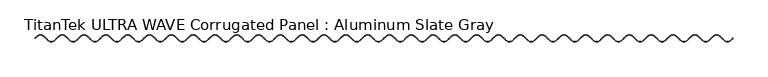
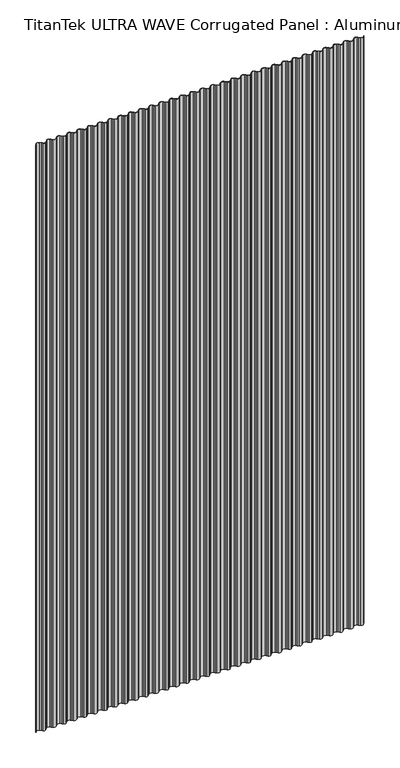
"""IFC4 building model written with IfcOpenShell, lengths in millimetres: proxy geometry, TitanTek ULTRA WAVE Corrugated Panel : Aluminum Slate Gray."""

from ifc_helpers import new_model, si_unit, point, frame_2d, origin, origin_with_axes, place, context, project, spatial, polyline, circle_curve, trimmed, segment, composite_curve, outline, extrude, source, transform, mapped, element, save


def titantek_ultra_wave_corrugated_panel_aluminum_slate_gray_77245a93(model_context):
    return source(origin(), model_context, "Body", "SweptSolid", [
        extrude(outline(composite_curve([segment(trimmed(circle_curve(frame_2d((2691.13, -7.499029)), 14.7255365), [point((2701.5425267, -17.9115558))], [point((2680.7174733, -17.9115558))], False, "CARTESIAN"), True, "CONTINUOUS"), segment(polyline([(2680.7174733, -17.9115558), (2674.2692087, -11.4632913), (2667.8209442, -5.0150267)]), True, "CONTINUOUS"), segment(trimmed(circle_curve(frame_2d((2658.11, -14.725971)), 13.733349), [point((2667.8209442, -5.0150267))], [point((2648.3990558, -5.0150267))], True, "CARTESIAN"), True, "CONTINUOUS"), segment(polyline([(2648.3990558, -5.0150267), (2641.9507913, -11.4632913), (2641.2492087, -10.7617087), (2647.6974733, -4.3134442)]), True, "CONTINUOUS"), segment(trimmed(circle_curve(frame_2d((2658.11, -14.725971)), 14.7255365), [point((2647.6974733, -4.3134442))], [point((2668.5225267, -4.3134442))], False, "CARTESIAN"), True, "CONTINUOUS"), segment(polyline([(2668.5225267, -4.3134442), (2674.9707913, -10.7617087), (2681.4190558, -17.2099733)]), True, "CONTINUOUS"), segment(trimmed(circle_curve(frame_2d((2691.13, -7.499029)), 13.733349), [point((2681.4190558, -17.2099733))], [point((2700.8409442, -17.2099733))], True, "CARTESIAN"), True, "CONTINUOUS"), segment(polyline([(2700.8409442, -17.2099733), (2707.2892087, -10.7617087), (2707.9907913, -11.4632913), (2701.5425267, -17.9115558)]), True, "CONTINUOUS")], self_intersect=False)), origin_with_axes(), (0.0, 0.0, 1.0), 4000.0),
        extrude(outline(composite_curve([segment(trimmed(circle_curve(frame_2d((2625.09, -7.499029)), 14.7255365), [point((2635.5025267, -17.9115558))], [point((2614.6774733, -17.9115558))], False, "CARTESIAN"), True, "CONTINUOUS"), segment(polyline([(2614.6774733, -17.9115558), (2608.2292087, -11.4632913), (2601.7809442, -5.0150267)]), True, "CONTINUOUS"), segment(trimmed(circle_curve(frame_2d((2592.07, -14.725971)), 13.733349), [point((2601.7809442, -5.0150267))], [point((2582.3590558, -5.0150267))], True, "CARTESIAN"), True, "CONTINUOUS"), segment(polyline([(2582.3590558, -5.0150267), (2575.9107913, -11.4632913), (2575.2092087, -10.7617087), (2581.6574733, -4.3134442)]), True, "CONTINUOUS"), segment(trimmed(circle_curve(frame_2d((2592.07, -14.725971)), 14.7255365), [point((2581.6574733, -4.3134442))], [point((2602.4825267, -4.3134442))], False, "CARTESIAN"), True, "CONTINUOUS"), segment(polyline([(2602.4825267, -4.3134442), (2608.9307913, -10.7617087), (2615.3790558, -17.2099733)]), True, "CONTINUOUS"), segment(trimmed(circle_curve(frame_2d((2625.09, -7.499029)), 13.733349), [point((2615.3790558, -17.2099733))], [point((2634.8009442, -17.2099733))], True, "CARTESIAN"), True, "CONTINUOUS"), segment(polyline([(2634.8009442, -17.2099733), (2641.2492087, -10.7617087), (2641.9507913, -11.4632913), (2635.5025267, -17.9115558)]), True, "CONTINUOUS")], self_intersect=False)), origin_with_axes(), (0.0, 0.0, 1.0), 4000.0),
        extrude(outline(composite_curve([segment(trimmed(circle_curve(frame_2d((2559.05, -7.499029)), 14.7255365), [point((2569.4625267, -17.9115558))], [point((2548.6374733, -17.9115558))], False, "CARTESIAN"), True, "CONTINUOUS"), segment(polyline([(2548.6374733, -17.9115558), (2542.1892087, -11.4632913), (2535.7409442, -5.0150267)]), True, "CONTINUOUS"), segment(trimmed(circle_curve(frame_2d((2526.03, -14.725971)), 13.733349), [point((2535.7409442, -5.0150267))], [point((2516.3190558, -5.0150267))], True, "CARTESIAN"), True, "CONTINUOUS"), segment(polyline([(2516.3190558, -5.0150267), (2509.8707913, -11.4632913), (2509.1692087, -10.7617087), (2515.6174733, -4.3134442)]), True, "CONTINUOUS"), segment(trimmed(circle_curve(frame_2d((2526.03, -14.725971)), 14.7255365), [point((2515.6174733, -4.3134442))], [point((2536.4425267, -4.3134442))], False, "CARTESIAN"), True, "CONTINUOUS"), segment(polyline([(2536.4425267, -4.3134442), (2542.8907913, -10.7617087), (2549.3390558, -17.2099733)]), True, "CONTINUOUS"), segment(trimmed(circle_curve(frame_2d((2559.05, -7.499029)), 13.733349), [point((2549.3390558, -17.2099733))], [point((2568.7609442, -17.2099733))], True, "CARTESIAN"), True, "CONTINUOUS"), segment(polyline([(2568.7609442, -17.2099733), (2575.2092087, -10.7617087), (2575.9107913, -11.4632913), (2569.4625267, -17.9115558)]), True, "CONTINUOUS")], self_intersect=False)), origin_with_axes(), (0.0, 0.0, 1.0), 4000.0),
        extrude(outline(composite_curve([segment(trimmed(circle_curve(frame_2d((2493.01, -7.499029)), 14.7255365), [point((2503.4225267, -17.9115558))], [point((2482.5974733, -17.9115558))], False, "CARTESIAN"), True, "CONTINUOUS"), segment(polyline([(2482.5974733, -17.9115558), (2476.1492087, -11.4632913), (2469.7009442, -5.0150267)]), True, "CONTINUOUS"), segment(trimmed(circle_curve(frame_2d((2459.99, -14.725971)), 13.733349), [point((2469.7009442, -5.0150267))], [point((2450.2790558, -5.0150267))], True, "CARTESIAN"), True, "CONTINUOUS"), segment(polyline([(2450.2790558, -5.0150267), (2443.8307913, -11.4632913), (2443.1292087, -10.7617087), (2449.5774733, -4.3134442)]), True, "CONTINUOUS"), segment(trimmed(circle_curve(frame_2d((2459.99, -14.725971)), 14.7255365), [point((2449.5774733, -4.3134442))], [point((2470.4025267, -4.3134442))], False, "CARTESIAN"), True, "CONTINUOUS"), segment(polyline([(2470.4025267, -4.3134442), (2476.8507913, -10.7617087), (2483.2990558, -17.2099733)]), True, "CONTINUOUS"), segment(trimmed(circle_curve(frame_2d((2493.01, -7.499029)), 13.733349), [point((2483.2990558, -17.2099733))], [point((2502.7209442, -17.2099733))], True, "CARTESIAN"), True, "CONTINUOUS"), segment(polyline([(2502.7209442, -17.2099733), (2509.1692087, -10.7617087), (2509.8707913, -11.4632913), (2503.4225267, -17.9115558)]), True, "CONTINUOUS")], self_intersect=False)), origin_with_axes(), (0.0, 0.0, 1.0), 4000.0),
        extrude(outline(composite_curve([segment(trimmed(circle_curve(frame_2d((2426.97, -7.499029)), 14.7255365), [point((2437.3825267, -17.9115558))], [point((2416.5574733, -17.9115558))], False, "CARTESIAN"), True, "CONTINUOUS"), segment(polyline([(2416.5574733, -17.9115558), (2410.1092087, -11.4632913), (2403.6609442, -5.0150267)]), True, "CONTINUOUS"), segment(trimmed(circle_curve(frame_2d((2393.95, -14.725971)), 13.733349), [point((2403.6609442, -5.0150267))], [point((2384.2390558, -5.0150267))], True, "CARTESIAN"), True, "CONTINUOUS"), segment(polyline([(2384.2390558, -5.0150267), (2377.7907913, -11.4632913), (2377.0892087, -10.7617087), (2383.5374733, -4.3134442)]), True, "CONTINUOUS"), segment(trimmed(circle_curve(frame_2d((2393.95, -14.725971)), 14.7255365), [point((2383.5374733, -4.3134442))], [point((2404.3625267, -4.3134442))], False, "CARTESIAN"), True, "CONTINUOUS"), segment(polyline([(2404.3625267, -4.3134442), (2410.8107913, -10.7617087), (2417.2590558, -17.2099733)]), True, "CONTINUOUS"), segment(trimmed(circle_curve(frame_2d((2426.97, -7.499029)), 13.733349), [point((2417.2590558, -17.2099733))], [point((2436.6809442, -17.2099733))], True, "CARTESIAN"), True, "CONTINUOUS"), segment(polyline([(2436.6809442, -17.2099733), (2443.1292087, -10.7617087), (2443.8307913, -11.4632913), (2437.3825267, -17.9115558)]), True, "CONTINUOUS")], self_intersect=False)), origin_with_axes(), (0.0, 0.0, 1.0), 4000.0),
        extrude(outline(composite_curve([segment(trimmed(circle_curve(frame_2d((2360.93, -7.499029)), 14.7255365), [point((2371.3425267, -17.9115558))], [point((2350.5174733, -17.9115558))], False, "CARTESIAN"), True, "CONTINUOUS"), segment(polyline([(2350.5174733, -17.9115558), (2344.0692087, -11.4632913), (2337.6209442, -5.0150267)]), True, "CONTINUOUS"), segment(trimmed(circle_curve(frame_2d((2327.91, -14.725971)), 13.733349), [point((2337.6209442, -5.0150267))], [point((2318.1990558, -5.0150267))], True, "CARTESIAN"), True, "CONTINUOUS"), segment(polyline([(2318.1990558, -5.0150267), (2311.7507913, -11.4632913), (2311.0492087, -10.7617087), (2317.4974733, -4.3134442)]), True, "CONTINUOUS"), segment(trimmed(circle_curve(frame_2d((2327.91, -14.725971)), 14.7255365), [point((2317.4974733, -4.3134442))], [point((2338.3225267, -4.3134442))], False, "CARTESIAN"), True, "CONTINUOUS"), segment(polyline([(2338.3225267, -4.3134442), (2344.7707913, -10.7617087), (2351.2190558, -17.2099733)]), True, "CONTINUOUS"), segment(trimmed(circle_curve(frame_2d((2360.93, -7.499029)), 13.733349), [point((2351.2190558, -17.2099733))], [point((2370.6409442, -17.2099733))], True, "CARTESIAN"), True, "CONTINUOUS"), segment(polyline([(2370.6409442, -17.2099733), (2377.0892087, -10.7617087), (2377.7907913, -11.4632913), (2371.3425267, -17.9115558)]), True, "CONTINUOUS")], self_intersect=False)), origin_with_axes(), (0.0, 0.0, 1.0), 4000.0),
        extrude(outline(composite_curve([segment(trimmed(circle_curve(frame_2d((2294.89, -7.499029)), 14.7255365), [point((2305.3025267, -17.9115558))], [point((2284.4774733, -17.9115558))], False, "CARTESIAN"), True, "CONTINUOUS"), segment(polyline([(2284.4774733, -17.9115558), (2278.0292087, -11.4632913), (2271.5809442, -5.0150267)]), True, "CONTINUOUS"), segment(trimmed(circle_curve(frame_2d((2261.87, -14.725971)), 13.733349), [point((2271.5809442, -5.0150267))], [point((2252.1590558, -5.0150267))], True, "CARTESIAN"), True, "CONTINUOUS"), segment(polyline([(2252.1590558, -5.0150267), (2245.7107913, -11.4632913), (2245.0092087, -10.7617087), (2251.4574733, -4.3134442)]), True, "CONTINUOUS"), segment(trimmed(circle_curve(frame_2d((2261.87, -14.725971)), 14.7255365), [point((2251.4574733, -4.3134442))], [point((2272.2825267, -4.3134442))], False, "CARTESIAN"), True, "CONTINUOUS"), segment(polyline([(2272.2825267, -4.3134442), (2278.7307913, -10.7617087), (2285.1790558, -17.2099733)]), True, "CONTINUOUS"), segment(trimmed(circle_curve(frame_2d((2294.89, -7.499029)), 13.733349), [point((2285.1790558, -17.2099733))], [point((2304.6009442, -17.2099733))], True, "CARTESIAN"), True, "CONTINUOUS"), segment(polyline([(2304.6009442, -17.2099733), (2311.0492087, -10.7617087), (2311.7507913, -11.4632913), (2305.3025267, -17.9115558)]), True, "CONTINUOUS")], self_intersect=False)), origin_with_axes(), (0.0, 0.0, 1.0), 4000.0),
        extrude(outline(composite_curve([segment(trimmed(circle_curve(frame_2d((2228.85, -7.499029)), 14.7255365), [point((2239.2625267, -17.9115558))], [point((2218.4374733, -17.9115558))], False, "CARTESIAN"), True, "CONTINUOUS"), segment(polyline([(2218.4374733, -17.9115558), (2211.9892087, -11.4632913), (2205.5409442, -5.0150267)]), True, "CONTINUOUS"), segment(trimmed(circle_curve(frame_2d((2195.83, -14.725971)), 13.733349), [point((2205.5409442, -5.0150267))], [point((2186.1190558, -5.0150267))], True, "CARTESIAN"), True, "CONTINUOUS"), segment(polyline([(2186.1190558, -5.0150267), (2179.6707913, -11.4632913), (2178.9692087, -10.7617087), (2185.4174733, -4.3134442)]), True, "CONTINUOUS"), segment(trimmed(circle_curve(frame_2d((2195.83, -14.725971)), 14.7255365), [point((2185.4174733, -4.3134442))], [point((2206.2425267, -4.3134442))], False, "CARTESIAN"), True, "CONTINUOUS"), segment(polyline([(2206.2425267, -4.3134442), (2212.6907913, -10.7617087), (2219.1390558, -17.2099733)]), True, "CONTINUOUS"), segment(trimmed(circle_curve(frame_2d((2228.85, -7.499029)), 13.733349), [point((2219.1390558, -17.2099733))], [point((2238.5609442, -17.2099733))], True, "CARTESIAN"), True, "CONTINUOUS"), segment(polyline([(2238.5609442, -17.2099733), (2245.0092087, -10.7617087), (2245.7107913, -11.4632913), (2239.2625267, -17.9115558)]), True, "CONTINUOUS")], self_intersect=False)), origin_with_axes(), (0.0, 0.0, 1.0), 4000.0),
        extrude(outline(composite_curve([segment(trimmed(circle_curve(frame_2d((2162.81, -7.499029)), 14.7255365), [point((2173.2225267, -17.9115558))], [point((2152.3974733, -17.9115558))], False, "CARTESIAN"), True, "CONTINUOUS"), segment(polyline([(2152.3974733, -17.9115558), (2145.9492087, -11.4632913), (2139.5009442, -5.0150267)]), True, "CONTINUOUS"), segment(trimmed(circle_curve(frame_2d((2129.79, -14.725971)), 13.733349), [point((2139.5009442, -5.0150267))], [point((2120.0790558, -5.0150267))], True, "CARTESIAN"), True, "CONTINUOUS"), segment(polyline([(2120.0790558, -5.0150267), (2113.6307913, -11.4632913), (2112.9292087, -10.7617087), (2119.3774733, -4.3134442)]), True, "CONTINUOUS"), segment(trimmed(circle_curve(frame_2d((2129.79, -14.725971)), 14.7255365), [point((2119.3774733, -4.3134442))], [point((2140.2025267, -4.3134442))], False, "CARTESIAN"), True, "CONTINUOUS"), segment(polyline([(2140.2025267, -4.3134442), (2146.6507913, -10.7617087), (2153.0990558, -17.2099733)]), True, "CONTINUOUS"), segment(trimmed(circle_curve(frame_2d((2162.81, -7.499029)), 13.733349), [point((2153.0990558, -17.2099733))], [point((2172.5209442, -17.2099733))], True, "CARTESIAN"), True, "CONTINUOUS"), segment(polyline([(2172.5209442, -17.2099733), (2178.9692087, -10.7617087), (2179.6707913, -11.4632913), (2173.2225267, -17.9115558)]), True, "CONTINUOUS")], self_intersect=False)), origin_with_axes(), (0.0, 0.0, 1.0), 4000.0),
        extrude(outline(composite_curve([segment(trimmed(circle_curve(frame_2d((2096.77, -7.499029)), 14.7255365), [point((2107.1825267, -17.9115558))], [point((2086.3574733, -17.9115558))], False, "CARTESIAN"), True, "CONTINUOUS"), segment(polyline([(2086.3574733, -17.9115558), (2079.9092087, -11.4632913), (2073.4609442, -5.0150267)]), True, "CONTINUOUS"), segment(trimmed(circle_curve(frame_2d((2063.75, -14.725971)), 13.733349), [point((2073.4609442, -5.0150267))], [point((2054.0390558, -5.0150267))], True, "CARTESIAN"), True, "CONTINUOUS"), segment(polyline([(2054.0390558, -5.0150267), (2047.5907913, -11.4632913), (2046.8892087, -10.7617087), (2053.3374733, -4.3134442)]), True, "CONTINUOUS"), segment(trimmed(circle_curve(frame_2d((2063.75, -14.725971)), 14.7255365), [point((2053.3374733, -4.3134442))], [point((2074.1625267, -4.3134442))], False, "CARTESIAN"), True, "CONTINUOUS"), segment(polyline([(2074.1625267, -4.3134442), (2080.6107913, -10.7617087), (2087.0590558, -17.2099733)]), True, "CONTINUOUS"), segment(trimmed(circle_curve(frame_2d((2096.77, -7.499029)), 13.733349), [point((2087.0590558, -17.2099733))], [point((2106.4809442, -17.2099733))], True, "CARTESIAN"), True, "CONTINUOUS"), segment(polyline([(2106.4809442, -17.2099733), (2112.9292087, -10.7617087), (2113.6307913, -11.4632913), (2107.1825267, -17.9115558)]), True, "CONTINUOUS")], self_intersect=False)), origin_with_axes(), (0.0, 0.0, 1.0), 4000.0),
        extrude(outline(composite_curve([segment(trimmed(circle_curve(frame_2d((2030.73, -7.499029)), 14.7255365), [point((2041.1425267, -17.9115558))], [point((2020.3174733, -17.9115558))], False, "CARTESIAN"), True, "CONTINUOUS"), segment(polyline([(2020.3174733, -17.9115558), (2013.8692087, -11.4632913), (2007.4209442, -5.0150267)]), True, "CONTINUOUS"), segment(trimmed(circle_curve(frame_2d((1997.71, -14.725971)), 13.733349), [point((2007.4209442, -5.0150267))], [point((1987.9990558, -5.0150267))], True, "CARTESIAN"), True, "CONTINUOUS"), segment(polyline([(1987.9990558, -5.0150267), (1981.5507913, -11.4632913), (1980.8492087, -10.7617087), (1987.2974733, -4.3134442)]), True, "CONTINUOUS"), segment(trimmed(circle_curve(frame_2d((1997.71, -14.725971)), 14.7255365), [point((1987.2974733, -4.3134442))], [point((2008.1225267, -4.3134442))], False, "CARTESIAN"), True, "CONTINUOUS"), segment(polyline([(2008.1225267, -4.3134442), (2014.5707913, -10.7617087), (2021.0190558, -17.2099733)]), True, "CONTINUOUS"), segment(trimmed(circle_curve(frame_2d((2030.73, -7.499029)), 13.733349), [point((2021.0190558, -17.2099733))], [point((2040.4409442, -17.2099733))], True, "CARTESIAN"), True, "CONTINUOUS"), segment(polyline([(2040.4409442, -17.2099733), (2046.8892087, -10.7617087), (2047.5907913, -11.4632913), (2041.1425267, -17.9115558)]), True, "CONTINUOUS")], self_intersect=False)), origin_with_axes(), (0.0, 0.0, 1.0), 4000.0),
        extrude(outline(composite_curve([segment(trimmed(circle_curve(frame_2d((1964.69, -7.499029)), 14.7255365), [point((1975.1025267, -17.9115558))], [point((1954.2774733, -17.9115558))], False, "CARTESIAN"), True, "CONTINUOUS"), segment(polyline([(1954.2774733, -17.9115558), (1947.8292087, -11.4632913), (1941.3809442, -5.0150267)]), True, "CONTINUOUS"), segment(trimmed(circle_curve(frame_2d((1931.67, -14.725971)), 13.733349), [point((1941.3809442, -5.0150267))], [point((1921.9590558, -5.0150267))], True, "CARTESIAN"), True, "CONTINUOUS"), segment(polyline([(1921.9590558, -5.0150267), (1915.5107913, -11.4632913), (1914.8092087, -10.7617087), (1921.2574733, -4.3134442)]), True, "CONTINUOUS"), segment(trimmed(circle_curve(frame_2d((1931.67, -14.725971)), 14.7255365), [point((1921.2574733, -4.3134442))], [point((1942.0825267, -4.3134442))], False, "CARTESIAN"), True, "CONTINUOUS"), segment(polyline([(1942.0825267, -4.3134442), (1948.5307913, -10.7617087), (1954.9790558, -17.2099733)]), True, "CONTINUOUS"), segment(trimmed(circle_curve(frame_2d((1964.69, -7.499029)), 13.733349), [point((1954.9790558, -17.2099733))], [point((1974.4009442, -17.2099733))], True, "CARTESIAN"), True, "CONTINUOUS"), segment(polyline([(1974.4009442, -17.2099733), (1980.8492087, -10.7617087), (1981.5507913, -11.4632913), (1975.1025267, -17.9115558)]), True, "CONTINUOUS")], self_intersect=False)), origin_with_axes(), (0.0, 0.0, 1.0), 4000.0),
        extrude(outline(composite_curve([segment(trimmed(circle_curve(frame_2d((1898.65, -7.499029)), 14.7255365), [point((1909.0625267, -17.9115558))], [point((1888.2374733, -17.9115558))], False, "CARTESIAN"), True, "CONTINUOUS"), segment(polyline([(1888.2374733, -17.9115558), (1881.7892087, -11.4632913), (1875.3409442, -5.0150267)]), True, "CONTINUOUS"), segment(trimmed(circle_curve(frame_2d((1865.63, -14.725971)), 13.733349), [point((1875.3409442, -5.0150267))], [point((1855.9190558, -5.0150267))], True, "CARTESIAN"), True, "CONTINUOUS"), segment(polyline([(1855.9190558, -5.0150267), (1849.4707913, -11.4632913), (1848.7692087, -10.7617087), (1855.2174733, -4.3134442)]), True, "CONTINUOUS"), segment(trimmed(circle_curve(frame_2d((1865.63, -14.725971)), 14.7255365), [point((1855.2174733, -4.3134442))], [point((1876.0425267, -4.3134442))], False, "CARTESIAN"), True, "CONTINUOUS"), segment(polyline([(1876.0425267, -4.3134442), (1882.4907913, -10.7617087), (1888.9390558, -17.2099733)]), True, "CONTINUOUS"), segment(trimmed(circle_curve(frame_2d((1898.65, -7.499029)), 13.733349), [point((1888.9390558, -17.2099733))], [point((1908.3609442, -17.2099733))], True, "CARTESIAN"), True, "CONTINUOUS"), segment(polyline([(1908.3609442, -17.2099733), (1914.8092087, -10.7617087), (1915.5107913, -11.4632913), (1909.0625267, -17.9115558)]), True, "CONTINUOUS")], self_intersect=False)), origin_with_axes(), (0.0, 0.0, 1.0), 4000.0),
        extrude(outline(composite_curve([segment(trimmed(circle_curve(frame_2d((1832.61, -7.499029)), 14.7255365), [point((1843.0225267, -17.9115558))], [point((1822.1974733, -17.9115558))], False, "CARTESIAN"), True, "CONTINUOUS"), segment(polyline([(1822.1974733, -17.9115558), (1815.7492087, -11.4632913), (1809.3009442, -5.0150267)]), True, "CONTINUOUS"), segment(trimmed(circle_curve(frame_2d((1799.59, -14.725971)), 13.733349), [point((1809.3009442, -5.0150267))], [point((1789.8790558, -5.0150267))], True, "CARTESIAN"), True, "CONTINUOUS"), segment(polyline([(1789.8790558, -5.0150267), (1783.4307913, -11.4632913), (1782.7292087, -10.7617087), (1789.1774733, -4.3134442)]), True, "CONTINUOUS"), segment(trimmed(circle_curve(frame_2d((1799.59, -14.725971)), 14.7255365), [point((1789.1774733, -4.3134442))], [point((1810.0025267, -4.3134442))], False, "CARTESIAN"), True, "CONTINUOUS"), segment(polyline([(1810.0025267, -4.3134442), (1816.4507913, -10.7617087), (1822.8990558, -17.2099733)]), True, "CONTINUOUS"), segment(trimmed(circle_curve(frame_2d((1832.61, -7.499029)), 13.733349), [point((1822.8990558, -17.2099733))], [point((1842.3209442, -17.2099733))], True, "CARTESIAN"), True, "CONTINUOUS"), segment(polyline([(1842.3209442, -17.2099733), (1848.7692087, -10.7617087), (1849.4707913, -11.4632913), (1843.0225267, -17.9115558)]), True, "CONTINUOUS")], self_intersect=False)), origin_with_axes(), (0.0, 0.0, 1.0), 4000.0),
        extrude(outline(composite_curve([segment(trimmed(circle_curve(frame_2d((1766.57, -7.499029)), 14.7255365), [point((1776.9825267, -17.9115558))], [point((1756.1574733, -17.9115558))], False, "CARTESIAN"), True, "CONTINUOUS"), segment(polyline([(1756.1574733, -17.9115558), (1749.7092087, -11.4632913), (1743.2609442, -5.0150267)]), True, "CONTINUOUS"), segment(trimmed(circle_curve(frame_2d((1733.55, -14.725971)), 13.733349), [point((1743.2609442, -5.0150267))], [point((1723.8390558, -5.0150267))], True, "CARTESIAN"), True, "CONTINUOUS"), segment(polyline([(1723.8390558, -5.0150267), (1717.3907913, -11.4632913), (1716.6892087, -10.7617087), (1723.1374733, -4.3134442)]), True, "CONTINUOUS"), segment(trimmed(circle_curve(frame_2d((1733.55, -14.725971)), 14.7255365), [point((1723.1374733, -4.3134442))], [point((1743.9625267, -4.3134442))], False, "CARTESIAN"), True, "CONTINUOUS"), segment(polyline([(1743.9625267, -4.3134442), (1750.4107913, -10.7617087), (1756.8590558, -17.2099733)]), True, "CONTINUOUS"), segment(trimmed(circle_curve(frame_2d((1766.57, -7.499029)), 13.733349), [point((1756.8590558, -17.2099733))], [point((1776.2809442, -17.2099733))], True, "CARTESIAN"), True, "CONTINUOUS"), segment(polyline([(1776.2809442, -17.2099733), (1782.7292087, -10.7617087), (1783.4307913, -11.4632913), (1776.9825267, -17.9115558)]), True, "CONTINUOUS")], self_intersect=False)), origin_with_axes(), (0.0, 0.0, 1.0), 4000.0),
        extrude(outline(composite_curve([segment(trimmed(circle_curve(frame_2d((1700.53, -7.499029)), 14.7255365), [point((1710.9425267, -17.9115558))], [point((1690.1174733, -17.9115558))], False, "CARTESIAN"), True, "CONTINUOUS"), segment(polyline([(1690.1174733, -17.9115558), (1683.6692087, -11.4632913), (1677.2209442, -5.0150267)]), True, "CONTINUOUS"), segment(trimmed(circle_curve(frame_2d((1667.51, -14.725971)), 13.733349), [point((1677.2209442, -5.0150267))], [point((1657.7990558, -5.0150267))], True, "CARTESIAN"), True, "CONTINUOUS"), segment(polyline([(1657.7990558, -5.0150267), (1651.3507913, -11.4632913), (1650.6492087, -10.7617087), (1657.0974733, -4.3134442)]), True, "CONTINUOUS"), segment(trimmed(circle_curve(frame_2d((1667.51, -14.725971)), 14.7255365), [point((1657.0974733, -4.3134442))], [point((1677.9225267, -4.3134442))], False, "CARTESIAN"), True, "CONTINUOUS"), segment(polyline([(1677.9225267, -4.3134442), (1684.3707913, -10.7617087), (1690.8190558, -17.2099733)]), True, "CONTINUOUS"), segment(trimmed(circle_curve(frame_2d((1700.53, -7.499029)), 13.733349), [point((1690.8190558, -17.2099733))], [point((1710.2409442, -17.2099733))], True, "CARTESIAN"), True, "CONTINUOUS"), segment(polyline([(1710.2409442, -17.2099733), (1716.6892087, -10.7617087), (1717.3907913, -11.4632913), (1710.9425267, -17.9115558)]), True, "CONTINUOUS")], self_intersect=False)), origin_with_axes(), (0.0, 0.0, 1.0), 4000.0),
        extrude(outline(composite_curve([segment(trimmed(circle_curve(frame_2d((1634.49, -7.499029)), 14.7255365), [point((1644.9025267, -17.9115558))], [point((1624.0774733, -17.9115558))], False, "CARTESIAN"), True, "CONTINUOUS"), segment(polyline([(1624.0774733, -17.9115558), (1617.6292087, -11.4632913), (1611.1809442, -5.0150267)]), True, "CONTINUOUS"), segment(trimmed(circle_curve(frame_2d((1601.47, -14.725971)), 13.733349), [point((1611.1809442, -5.0150267))], [point((1591.7590558, -5.0150267))], True, "CARTESIAN"), True, "CONTINUOUS"), segment(polyline([(1591.7590558, -5.0150267), (1585.3107913, -11.4632913), (1584.6092087, -10.7617087), (1591.0574733, -4.3134442)]), True, "CONTINUOUS"), segment(trimmed(circle_curve(frame_2d((1601.47, -14.725971)), 14.7255365), [point((1591.0574733, -4.3134442))], [point((1611.8825267, -4.3134442))], False, "CARTESIAN"), True, "CONTINUOUS"), segment(polyline([(1611.8825267, -4.3134442), (1618.3307913, -10.7617087), (1624.7790558, -17.2099733)]), True, "CONTINUOUS"), segment(trimmed(circle_curve(frame_2d((1634.49, -7.499029)), 13.733349), [point((1624.7790558, -17.2099733))], [point((1644.2009442, -17.2099733))], True, "CARTESIAN"), True, "CONTINUOUS"), segment(polyline([(1644.2009442, -17.2099733), (1650.6492087, -10.7617087), (1651.3507913, -11.4632913), (1644.9025267, -17.9115558)]), True, "CONTINUOUS")], self_intersect=False)), origin_with_axes(), (0.0, 0.0, 1.0), 4000.0),
        extrude(outline(composite_curve([segment(trimmed(circle_curve(frame_2d((1568.45, -7.499029)), 14.7255365), [point((1578.8625267, -17.9115558))], [point((1558.0374733, -17.9115558))], False, "CARTESIAN"), True, "CONTINUOUS"), segment(polyline([(1558.0374733, -17.9115558), (1551.5892087, -11.4632913), (1545.1409442, -5.0150267)]), True, "CONTINUOUS"), segment(trimmed(circle_curve(frame_2d((1535.43, -14.725971)), 13.733349), [point((1545.1409442, -5.0150267))], [point((1525.7190558, -5.0150267))], True, "CARTESIAN"), True, "CONTINUOUS"), segment(polyline([(1525.7190558, -5.0150267), (1519.2707913, -11.4632913), (1518.5692087, -10.7617087), (1525.0174733, -4.3134442)]), True, "CONTINUOUS"), segment(trimmed(circle_curve(frame_2d((1535.43, -14.725971)), 14.7255365), [point((1525.0174733, -4.3134442))], [point((1545.8425267, -4.3134442))], False, "CARTESIAN"), True, "CONTINUOUS"), segment(polyline([(1545.8425267, -4.3134442), (1552.2907913, -10.7617087), (1558.7390558, -17.2099733)]), True, "CONTINUOUS"), segment(trimmed(circle_curve(frame_2d((1568.45, -7.499029)), 13.733349), [point((1558.7390558, -17.2099733))], [point((1578.1609442, -17.2099733))], True, "CARTESIAN"), True, "CONTINUOUS"), segment(polyline([(1578.1609442, -17.2099733), (1584.6092087, -10.7617087), (1585.3107913, -11.4632913), (1578.8625267, -17.9115558)]), True, "CONTINUOUS")], self_intersect=False)), origin_with_axes(), (0.0, 0.0, 1.0), 4000.0),
        extrude(outline(composite_curve([segment(trimmed(circle_curve(frame_2d((1502.41, -7.499029)), 14.7255365), [point((1512.8225267, -17.9115558))], [point((1491.9974733, -17.9115558))], False, "CARTESIAN"), True, "CONTINUOUS"), segment(polyline([(1491.9974733, -17.9115558), (1485.5492087, -11.4632913), (1479.1009442, -5.0150267)]), True, "CONTINUOUS"), segment(trimmed(circle_curve(frame_2d((1469.39, -14.725971)), 13.733349), [point((1479.1009442, -5.0150267))], [point((1459.6790558, -5.0150267))], True, "CARTESIAN"), True, "CONTINUOUS"), segment(polyline([(1459.6790558, -5.0150267), (1453.2307913, -11.4632913), (1452.5292087, -10.7617087), (1458.9774733, -4.3134442)]), True, "CONTINUOUS"), segment(trimmed(circle_curve(frame_2d((1469.39, -14.725971)), 14.7255365), [point((1458.9774733, -4.3134442))], [point((1479.8025267, -4.3134442))], False, "CARTESIAN"), True, "CONTINUOUS"), segment(polyline([(1479.8025267, -4.3134442), (1486.2507913, -10.7617087), (1492.6990558, -17.2099733)]), True, "CONTINUOUS"), segment(trimmed(circle_curve(frame_2d((1502.41, -7.499029)), 13.733349), [point((1492.6990558, -17.2099733))], [point((1512.1209442, -17.2099733))], True, "CARTESIAN"), True, "CONTINUOUS"), segment(polyline([(1512.1209442, -17.2099733), (1518.5692087, -10.7617087), (1519.2707913, -11.4632913), (1512.8225267, -17.9115558)]), True, "CONTINUOUS")], self_intersect=False)), origin_with_axes(), (0.0, 0.0, 1.0), 4000.0),
        extrude(outline(composite_curve([segment(trimmed(circle_curve(frame_2d((1436.37, -7.499029)), 14.7255365), [point((1446.7825267, -17.9115558))], [point((1425.9574733, -17.9115558))], False, "CARTESIAN"), True, "CONTINUOUS"), segment(polyline([(1425.9574733, -17.9115558), (1419.5092087, -11.4632913), (1413.0609442, -5.0150267)]), True, "CONTINUOUS"), segment(trimmed(circle_curve(frame_2d((1403.35, -14.725971)), 13.733349), [point((1413.0609442, -5.0150267))], [point((1393.6390558, -5.0150267))], True, "CARTESIAN"), True, "CONTINUOUS"), segment(polyline([(1393.6390558, -5.0150267), (1387.1907913, -11.4632913), (1386.4892087, -10.7617087), (1392.9374733, -4.3134442)]), True, "CONTINUOUS"), segment(trimmed(circle_curve(frame_2d((1403.35, -14.725971)), 14.7255365), [point((1392.9374733, -4.3134442))], [point((1413.7625267, -4.3134442))], False, "CARTESIAN"), True, "CONTINUOUS"), segment(polyline([(1413.7625267, -4.3134442), (1420.2107913, -10.7617087), (1426.6590558, -17.2099733)]), True, "CONTINUOUS"), segment(trimmed(circle_curve(frame_2d((1436.37, -7.499029)), 13.733349), [point((1426.6590558, -17.2099733))], [point((1446.0809442, -17.2099733))], True, "CARTESIAN"), True, "CONTINUOUS"), segment(polyline([(1446.0809442, -17.2099733), (1452.5292087, -10.7617087), (1453.2307913, -11.4632913), (1446.7825267, -17.9115558)]), True, "CONTINUOUS")], self_intersect=False)), origin_with_axes(), (0.0, 0.0, 1.0), 4000.0),
        extrude(outline(composite_curve([segment(trimmed(circle_curve(frame_2d((1370.33, -7.499029)), 14.7255365), [point((1380.7425267, -17.9115558))], [point((1359.9174733, -17.9115558))], False, "CARTESIAN"), True, "CONTINUOUS"), segment(polyline([(1359.9174733, -17.9115558), (1353.4692087, -11.4632913), (1347.0209442, -5.0150267)]), True, "CONTINUOUS"), segment(trimmed(circle_curve(frame_2d((1337.31, -14.725971)), 13.733349), [point((1347.0209442, -5.0150267))], [point((1327.5990558, -5.0150267))], True, "CARTESIAN"), True, "CONTINUOUS"), segment(polyline([(1327.5990558, -5.0150267), (1321.1507913, -11.4632913), (1320.4492087, -10.7617087), (1326.8974733, -4.3134442)]), True, "CONTINUOUS"), segment(trimmed(circle_curve(frame_2d((1337.31, -14.725971)), 14.7255365), [point((1326.8974733, -4.3134442))], [point((1347.7225267, -4.3134442))], False, "CARTESIAN"), True, "CONTINUOUS"), segment(polyline([(1347.7225267, -4.3134442), (1354.1707913, -10.7617087), (1360.6190558, -17.2099733)]), True, "CONTINUOUS"), segment(trimmed(circle_curve(frame_2d((1370.33, -7.499029)), 13.733349), [point((1360.6190558, -17.2099733))], [point((1380.0409442, -17.2099733))], True, "CARTESIAN"), True, "CONTINUOUS"), segment(polyline([(1380.0409442, -17.2099733), (1386.4892087, -10.7617087), (1387.1907913, -11.4632913), (1380.7425267, -17.9115558)]), True, "CONTINUOUS")], self_intersect=False)), origin_with_axes(), (0.0, 0.0, 1.0), 4000.0),
        extrude(outline(composite_curve([segment(trimmed(circle_curve(frame_2d((1304.29, -7.499029)), 14.7255365), [point((1314.7025267, -17.9115558))], [point((1293.8774733, -17.9115558))], False, "CARTESIAN"), True, "CONTINUOUS"), segment(polyline([(1293.8774733, -17.9115558), (1287.4292087, -11.4632913), (1280.9809442, -5.0150267)]), True, "CONTINUOUS"), segment(trimmed(circle_curve(frame_2d((1271.27, -14.725971)), 13.733349), [point((1280.9809442, -5.0150267))], [point((1261.5590558, -5.0150267))], True, "CARTESIAN"), True, "CONTINUOUS"), segment(polyline([(1261.5590558, -5.0150267), (1255.1107913, -11.4632913), (1254.4092087, -10.7617087), (1260.8574733, -4.3134442)]), True, "CONTINUOUS"), segment(trimmed(circle_curve(frame_2d((1271.27, -14.725971)), 14.7255365), [point((1260.8574733, -4.3134442))], [point((1281.6825267, -4.3134442))], False, "CARTESIAN"), True, "CONTINUOUS"), segment(polyline([(1281.6825267, -4.3134442), (1288.1307913, -10.7617087), (1294.5790558, -17.2099733)]), True, "CONTINUOUS"), segment(trimmed(circle_curve(frame_2d((1304.29, -7.499029)), 13.733349), [point((1294.5790558, -17.2099733))], [point((1314.0009442, -17.2099733))], True, "CARTESIAN"), True, "CONTINUOUS"), segment(polyline([(1314.0009442, -17.2099733), (1320.4492087, -10.7617087), (1321.1507913, -11.4632913), (1314.7025267, -17.9115558)]), True, "CONTINUOUS")], self_intersect=False)), origin_with_axes(), (0.0, 0.0, 1.0), 4000.0),
        extrude(outline(composite_curve([segment(trimmed(circle_curve(frame_2d((1238.25, -7.499029)), 14.7255365), [point((1248.6625267, -17.9115558))], [point((1227.8374733, -17.9115558))], False, "CARTESIAN"), True, "CONTINUOUS"), segment(polyline([(1227.8374733, -17.9115558), (1221.3892087, -11.4632913), (1214.9409442, -5.0150267)]), True, "CONTINUOUS"), segment(trimmed(circle_curve(frame_2d((1205.23, -14.725971)), 13.733349), [point((1214.9409442, -5.0150267))], [point((1195.5190558, -5.0150267))], True, "CARTESIAN"), True, "CONTINUOUS"), segment(polyline([(1195.5190558, -5.0150267), (1189.0707913, -11.4632913), (1188.3692087, -10.7617087), (1194.8174733, -4.3134442)]), True, "CONTINUOUS"), segment(trimmed(circle_curve(frame_2d((1205.23, -14.725971)), 14.7255365), [point((1194.8174733, -4.3134442))], [point((1215.6425267, -4.3134442))], False, "CARTESIAN"), True, "CONTINUOUS"), segment(polyline([(1215.6425267, -4.3134442), (1222.0907913, -10.7617087), (1228.5390558, -17.2099733)]), True, "CONTINUOUS"), segment(trimmed(circle_curve(frame_2d((1238.25, -7.499029)), 13.733349), [point((1228.5390558, -17.2099733))], [point((1247.9609442, -17.2099733))], True, "CARTESIAN"), True, "CONTINUOUS"), segment(polyline([(1247.9609442, -17.2099733), (1254.4092087, -10.7617087), (1255.1107913, -11.4632913), (1248.6625267, -17.9115558)]), True, "CONTINUOUS")], self_intersect=False)), origin_with_axes(), (0.0, 0.0, 1.0), 4000.0),
        extrude(outline(composite_curve([segment(trimmed(circle_curve(frame_2d((1172.21, -7.499029)), 14.7255365), [point((1182.6225267, -17.9115558))], [point((1161.7974733, -17.9115558))], False, "CARTESIAN"), True, "CONTINUOUS"), segment(polyline([(1161.7974733, -17.9115558), (1155.3492087, -11.4632913), (1148.9009442, -5.0150267)]), True, "CONTINUOUS"), segment(trimmed(circle_curve(frame_2d((1139.19, -14.725971)), 13.733349), [point((1148.9009442, -5.0150267))], [point((1129.4790558, -5.0150267))], True, "CARTESIAN"), True, "CONTINUOUS"), segment(polyline([(1129.4790558, -5.0150267), (1123.0307913, -11.4632913), (1122.3292087, -10.7617087), (1128.7774733, -4.3134442)]), True, "CONTINUOUS"), segment(trimmed(circle_curve(frame_2d((1139.19, -14.725971)), 14.7255365), [point((1128.7774733, -4.3134442))], [point((1149.6025267, -4.3134442))], False, "CARTESIAN"), True, "CONTINUOUS"), segment(polyline([(1149.6025267, -4.3134442), (1156.0507913, -10.7617087), (1162.4990558, -17.2099733)]), True, "CONTINUOUS"), segment(trimmed(circle_curve(frame_2d((1172.21, -7.499029)), 13.733349), [point((1162.4990558, -17.2099733))], [point((1181.9209442, -17.2099733))], True, "CARTESIAN"), True, "CONTINUOUS"), segment(polyline([(1181.9209442, -17.2099733), (1188.3692087, -10.7617087), (1189.0707913, -11.4632913), (1182.6225267, -17.9115558)]), True, "CONTINUOUS")], self_intersect=False)), origin_with_axes(), (0.0, 0.0, 1.0), 4000.0),
        extrude(outline(composite_curve([segment(trimmed(circle_curve(frame_2d((1106.17, -7.499029)), 14.7255365), [point((1116.5825267, -17.9115558))], [point((1095.7574733, -17.9115558))], False, "CARTESIAN"), True, "CONTINUOUS"), segment(polyline([(1095.7574733, -17.9115558), (1089.3092087, -11.4632913), (1082.8609442, -5.0150267)]), True, "CONTINUOUS"), segment(trimmed(circle_curve(frame_2d((1073.15, -14.725971)), 13.733349), [point((1082.8609442, -5.0150267))], [point((1063.4390558, -5.0150267))], True, "CARTESIAN"), True, "CONTINUOUS"), segment(polyline([(1063.4390558, -5.0150267), (1056.9907913, -11.4632913), (1056.2892087, -10.7617087), (1062.7374733, -4.3134442)]), True, "CONTINUOUS"), segment(trimmed(circle_curve(frame_2d((1073.15, -14.725971)), 14.7255365), [point((1062.7374733, -4.3134442))], [point((1083.5625267, -4.3134442))], False, "CARTESIAN"), True, "CONTINUOUS"), segment(polyline([(1083.5625267, -4.3134442), (1090.0107913, -10.7617087), (1096.4590558, -17.2099733)]), True, "CONTINUOUS"), segment(trimmed(circle_curve(frame_2d((1106.17, -7.499029)), 13.733349), [point((1096.4590558, -17.2099733))], [point((1115.8809442, -17.2099733))], True, "CARTESIAN"), True, "CONTINUOUS"), segment(polyline([(1115.8809442, -17.2099733), (1122.3292087, -10.7617087), (1123.0307913, -11.4632913), (1116.5825267, -17.9115558)]), True, "CONTINUOUS")], self_intersect=False)), origin_with_axes(), (0.0, 0.0, 1.0), 4000.0),
        extrude(outline(composite_curve([segment(trimmed(circle_curve(frame_2d((1040.13, -7.499029)), 14.7255365), [point((1050.5425267, -17.9115558))], [point((1029.7174733, -17.9115558))], False, "CARTESIAN"), True, "CONTINUOUS"), segment(polyline([(1029.7174733, -17.9115558), (1023.2692087, -11.4632913), (1016.8209442, -5.0150267)]), True, "CONTINUOUS"), segment(trimmed(circle_curve(frame_2d((1007.11, -14.725971)), 13.733349), [point((1016.8209442, -5.0150267))], [point((997.3990558, -5.0150267))], True, "CARTESIAN"), True, "CONTINUOUS"), segment(polyline([(997.3990558, -5.0150267), (990.9507913, -11.4632913), (990.2492087, -10.7617087), (996.6974733, -4.3134442)]), True, "CONTINUOUS"), segment(trimmed(circle_curve(frame_2d((1007.11, -14.725971)), 14.7255365), [point((996.6974733, -4.3134442))], [point((1017.5225267, -4.3134442))], False, "CARTESIAN"), True, "CONTINUOUS"), segment(polyline([(1017.5225267, -4.3134442), (1023.9707913, -10.7617087), (1030.4190558, -17.2099733)]), True, "CONTINUOUS"), segment(trimmed(circle_curve(frame_2d((1040.13, -7.499029)), 13.733349), [point((1030.4190558, -17.2099733))], [point((1049.8409442, -17.2099733))], True, "CARTESIAN"), True, "CONTINUOUS"), segment(polyline([(1049.8409442, -17.2099733), (1056.2892087, -10.7617087), (1056.9907913, -11.4632913), (1050.5425267, -17.9115558)]), True, "CONTINUOUS")], self_intersect=False)), origin_with_axes(), (0.0, 0.0, 1.0), 4000.0),
        extrude(outline(composite_curve([segment(trimmed(circle_curve(frame_2d((974.09, -7.499029)), 14.7255365), [point((984.5025267, -17.9115558))], [point((963.6774733, -17.9115558))], False, "CARTESIAN"), True, "CONTINUOUS"), segment(polyline([(963.6774733, -17.9115558), (957.2292087, -11.4632913), (950.7809442, -5.0150267)]), True, "CONTINUOUS"), segment(trimmed(circle_curve(frame_2d((941.07, -14.725971)), 13.733349), [point((950.7809442, -5.0150267))], [point((931.3590558, -5.0150267))], True, "CARTESIAN"), True, "CONTINUOUS"), segment(polyline([(931.3590558, -5.0150267), (924.9107913, -11.4632913), (924.2092087, -10.7617087), (930.6574733, -4.3134442)]), True, "CONTINUOUS"), segment(trimmed(circle_curve(frame_2d((941.07, -14.725971)), 14.7255365), [point((930.6574733, -4.3134442))], [point((951.4825267, -4.3134442))], False, "CARTESIAN"), True, "CONTINUOUS"), segment(polyline([(951.4825267, -4.3134442), (957.9307913, -10.7617087), (964.3790558, -17.2099733)]), True, "CONTINUOUS"), segment(trimmed(circle_curve(frame_2d((974.09, -7.499029)), 13.733349), [point((964.3790558, -17.2099733))], [point((983.8009442, -17.2099733))], True, "CARTESIAN"), True, "CONTINUOUS"), segment(polyline([(983.8009442, -17.2099733), (990.2492087, -10.7617087), (990.9507913, -11.4632913), (984.5025267, -17.9115558)]), True, "CONTINUOUS")], self_intersect=False)), origin_with_axes(), (0.0, 0.0, 1.0), 4000.0),
        extrude(outline(composite_curve([segment(trimmed(circle_curve(frame_2d((908.05, -7.499029)), 14.7255365), [point((918.4625267, -17.9115558))], [point((897.6374733, -17.9115558))], False, "CARTESIAN"), True, "CONTINUOUS"), segment(polyline([(897.6374733, -17.9115558), (891.1892087, -11.4632913), (884.7409442, -5.0150267)]), True, "CONTINUOUS"), segment(trimmed(circle_curve(frame_2d((875.03, -14.725971)), 13.733349), [point((884.7409442, -5.0150267))], [point((865.3190558, -5.0150267))], True, "CARTESIAN"), True, "CONTINUOUS"), segment(polyline([(865.3190558, -5.0150267), (858.8707913, -11.4632913), (858.1692087, -10.7617087), (864.6174733, -4.3134442)]), True, "CONTINUOUS"), segment(trimmed(circle_curve(frame_2d((875.03, -14.725971)), 14.7255365), [point((864.6174733, -4.3134442))], [point((885.4425267, -4.3134442))], False, "CARTESIAN"), True, "CONTINUOUS"), segment(polyline([(885.4425267, -4.3134442), (891.8907913, -10.7617087), (898.3390558, -17.2099733)]), True, "CONTINUOUS"), segment(trimmed(circle_curve(frame_2d((908.05, -7.499029)), 13.733349), [point((898.3390558, -17.2099733))], [point((917.7609442, -17.2099733))], True, "CARTESIAN"), True, "CONTINUOUS"), segment(polyline([(917.7609442, -17.2099733), (924.2092087, -10.7617087), (924.9107913, -11.4632913), (918.4625267, -17.9115558)]), True, "CONTINUOUS")], self_intersect=False)), origin_with_axes(), (0.0, 0.0, 1.0), 4000.0),
        extrude(outline(composite_curve([segment(trimmed(circle_curve(frame_2d((842.01, -7.499029)), 14.7255365), [point((852.4225267, -17.9115558))], [point((831.5974733, -17.9115558))], False, "CARTESIAN"), True, "CONTINUOUS"), segment(polyline([(831.5974733, -17.9115558), (825.1492087, -11.4632913), (818.7009442, -5.0150267)]), True, "CONTINUOUS"), segment(trimmed(circle_curve(frame_2d((808.99, -14.725971)), 13.733349), [point((818.7009442, -5.0150267))], [point((799.2790558, -5.0150267))], True, "CARTESIAN"), True, "CONTINUOUS"), segment(polyline([(799.2790558, -5.0150267), (792.8307913, -11.4632913), (792.1292087, -10.7617087), (798.5774733, -4.3134442)]), True, "CONTINUOUS"), segment(trimmed(circle_curve(frame_2d((808.99, -14.725971)), 14.7255365), [point((798.5774733, -4.3134442))], [point((819.4025267, -4.3134442))], False, "CARTESIAN"), True, "CONTINUOUS"), segment(polyline([(819.4025267, -4.3134442), (825.8507913, -10.7617087), (832.2990558, -17.2099733)]), True, "CONTINUOUS"), segment(trimmed(circle_curve(frame_2d((842.01, -7.499029)), 13.733349), [point((832.2990558, -17.2099733))], [point((851.7209442, -17.2099733))], True, "CARTESIAN"), True, "CONTINUOUS"), segment(polyline([(851.7209442, -17.2099733), (858.1692087, -10.7617087), (858.8707913, -11.4632913), (852.4225267, -17.9115558)]), True, "CONTINUOUS")], self_intersect=False)), origin_with_axes(), (0.0, 0.0, 1.0), 4000.0),
        extrude(outline(composite_curve([segment(trimmed(circle_curve(frame_2d((775.97, -7.499029)), 14.7255365), [point((786.3825267, -17.9115558))], [point((765.5574733, -17.9115558))], False, "CARTESIAN"), True, "CONTINUOUS"), segment(polyline([(765.5574733, -17.9115558), (759.1092087, -11.4632913), (752.6609442, -5.0150267)]), True, "CONTINUOUS"), segment(trimmed(circle_curve(frame_2d((742.95, -14.725971)), 13.733349), [point((752.6609442, -5.0150267))], [point((733.2390558, -5.0150267))], True, "CARTESIAN"), True, "CONTINUOUS"), segment(polyline([(733.2390558, -5.0150267), (726.7907913, -11.4632913), (726.0892087, -10.7617087), (732.5374733, -4.3134442)]), True, "CONTINUOUS"), segment(trimmed(circle_curve(frame_2d((742.95, -14.725971)), 14.7255365), [point((732.5374733, -4.3134442))], [point((753.3625267, -4.3134442))], False, "CARTESIAN"), True, "CONTINUOUS"), segment(polyline([(753.3625267, -4.3134442), (759.8107913, -10.7617087), (766.2590558, -17.2099733)]), True, "CONTINUOUS"), segment(trimmed(circle_curve(frame_2d((775.97, -7.499029)), 13.733349), [point((766.2590558, -17.2099733))], [point((785.6809442, -17.2099733))], True, "CARTESIAN"), True, "CONTINUOUS"), segment(polyline([(785.6809442, -17.2099733), (792.1292087, -10.7617087), (792.8307913, -11.4632913), (786.3825267, -17.9115558)]), True, "CONTINUOUS")], self_intersect=False)), origin_with_axes(), (0.0, 0.0, 1.0), 4000.0),
        extrude(outline(composite_curve([segment(trimmed(circle_curve(frame_2d((709.93, -7.499029)), 14.7255365), [point((720.3425267, -17.9115558))], [point((699.5174733, -17.9115558))], False, "CARTESIAN"), True, "CONTINUOUS"), segment(polyline([(699.5174733, -17.9115558), (693.0692087, -11.4632913), (686.6209442, -5.0150267)]), True, "CONTINUOUS"), segment(trimmed(circle_curve(frame_2d((676.91, -14.725971)), 13.733349), [point((686.6209442, -5.0150267))], [point((667.1990558, -5.0150267))], True, "CARTESIAN"), True, "CONTINUOUS"), segment(polyline([(667.1990558, -5.0150267), (660.7507913, -11.4632913), (660.0492087, -10.7617087), (666.4974733, -4.3134442)]), True, "CONTINUOUS"), segment(trimmed(circle_curve(frame_2d((676.91, -14.725971)), 14.7255365), [point((666.4974733, -4.3134442))], [point((687.3225267, -4.3134442))], False, "CARTESIAN"), True, "CONTINUOUS"), segment(polyline([(687.3225267, -4.3134442), (693.7707913, -10.7617087), (700.2190558, -17.2099733)]), True, "CONTINUOUS"), segment(trimmed(circle_curve(frame_2d((709.93, -7.499029)), 13.733349), [point((700.2190558, -17.2099733))], [point((719.6409442, -17.2099733))], True, "CARTESIAN"), True, "CONTINUOUS"), segment(polyline([(719.6409442, -17.2099733), (726.0892087, -10.7617087), (726.7907913, -11.4632913), (720.3425267, -17.9115558)]), True, "CONTINUOUS")], self_intersect=False)), origin_with_axes(), (0.0, 0.0, 1.0), 4000.0),
        extrude(outline(composite_curve([segment(trimmed(circle_curve(frame_2d((643.89, -7.499029)), 14.7255365), [point((654.3025267, -17.9115558))], [point((633.4774733, -17.9115558))], False, "CARTESIAN"), True, "CONTINUOUS"), segment(polyline([(633.4774733, -17.9115558), (627.0292087, -11.4632913), (620.5809442, -5.0150267)]), True, "CONTINUOUS"), segment(trimmed(circle_curve(frame_2d((610.87, -14.725971)), 13.733349), [point((620.5809442, -5.0150267))], [point((601.1590558, -5.0150267))], True, "CARTESIAN"), True, "CONTINUOUS"), segment(polyline([(601.1590558, -5.0150267), (594.7107913, -11.4632913), (594.0092087, -10.7617087), (600.4574733, -4.3134442)]), True, "CONTINUOUS"), segment(trimmed(circle_curve(frame_2d((610.87, -14.725971)), 14.7255365), [point((600.4574733, -4.3134442))], [point((621.2825267, -4.3134442))], False, "CARTESIAN"), True, "CONTINUOUS"), segment(polyline([(621.2825267, -4.3134442), (627.7307913, -10.7617087), (634.1790558, -17.2099733)]), True, "CONTINUOUS"), segment(trimmed(circle_curve(frame_2d((643.89, -7.499029)), 13.733349), [point((634.1790558, -17.2099733))], [point((653.6009442, -17.2099733))], True, "CARTESIAN"), True, "CONTINUOUS"), segment(polyline([(653.6009442, -17.2099733), (660.0492087, -10.7617087), (660.7507913, -11.4632913), (654.3025267, -17.9115558)]), True, "CONTINUOUS")], self_intersect=False)), origin_with_axes(), (0.0, 0.0, 1.0), 4000.0),
    ])


if __name__ == "__main__":
    model = new_model("IFC4")
    model_context = context("Model", 3, world=origin())
    ifc_project = project(units=[si_unit("LENGTHUNIT", "METRE", prefix="MILLI")], contexts=[model_context])
    site = spatial("IfcSite", under=ifc_project)
    building = spatial("IfcBuilding", under=site)
    placement = place(None, origin())
    titantek_ultra_wave_corrugated_panel_aluminum_slate_gray_shape = titantek_ultra_wave_corrugated_panel_aluminum_slate_gray_77245a93(model_context)
    element("IfcBuildingElementProxy", 1, Name="TitanTek ULTRA WAVE Corrugated Panel : Aluminum Slate Gray", ObjectType="TitanTek ULTRA WAVE Corrugated Panel : Aluminum Slate Gray", at=placement, inside=building, context=model_context, shape_type="MappedRepresentation", body=[
        mapped(titantek_ultra_wave_corrugated_panel_aluminum_slate_gray_shape, transform((0.0, 0.0, 0.0), x_axis=(1.0, 0.0, 0.0), y_axis=(0.0, 1.0, 0.0), z_axis=(0.0, 0.0, 1.0))),
    ])
    save(model, "model.ifc")
